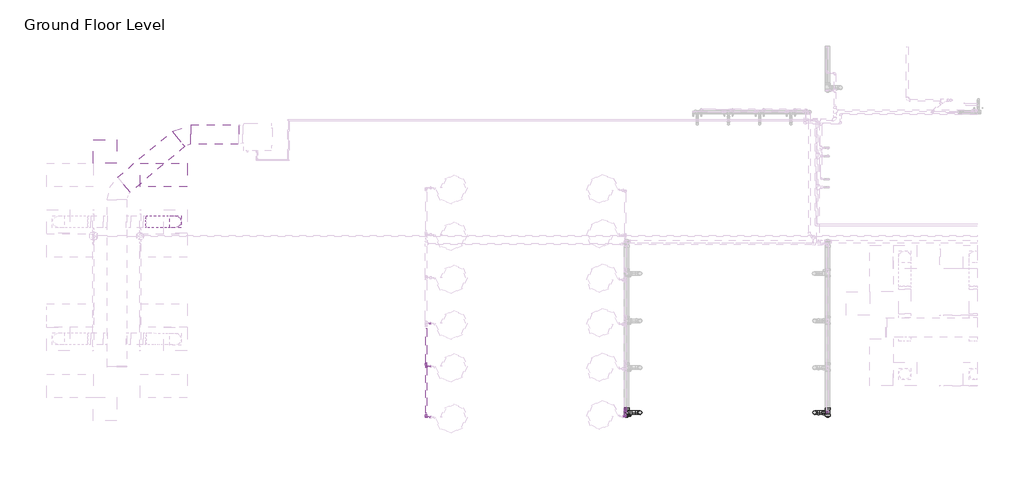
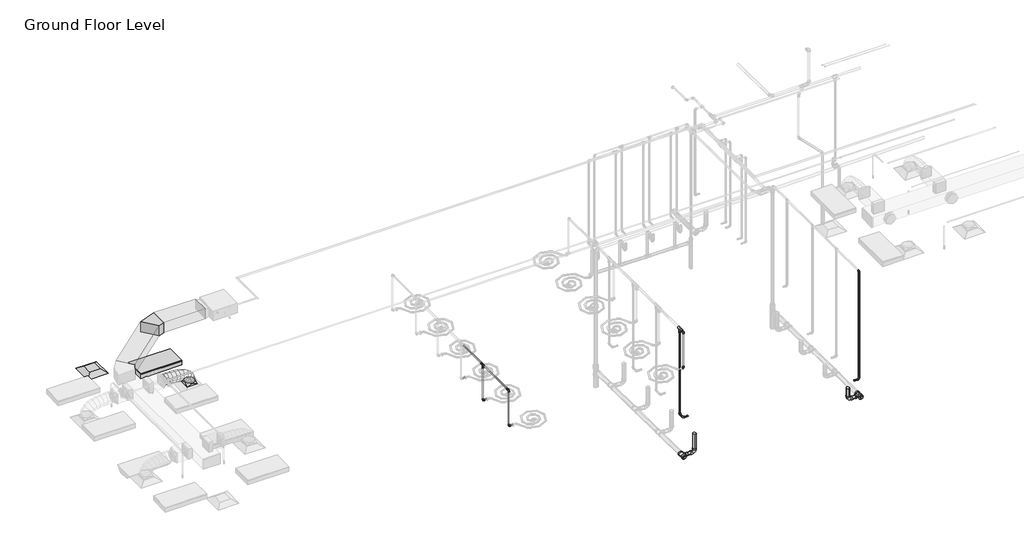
# One storey, part 3 of 75: 22 pipe fittings, 19 pipe segments, 3 duct segments, 2 duct fittings, 1 air terminal, 1 light fixture.
"""IFC4 building model written with IfcOpenShell, lengths in millimetres."""

from ifc_helpers import new_model, si_unit, point, frame, frame_2d, origin, place, context, project, spatial, polyline, circle_curve, ellipse_curve, trimmed, segment, composite_curve, outline, extrude, transform, mapped, element, save
from ifc_brep_helpers import plane_surface, cylinder_surface, advanced_brep
from components import m_return_diffuser_600_x_600_face_300_x_300_connection_ff221211, m_rectangular_elbow_radius_1_w_e33107ab, m_rectangular_to_round_transition_angle_45_degree_641efff0, m_troffer_light_parabolic_rectangular1_0600x1200mm_4_lamp_86473d4a, m_bend_pvc_sch_40_dwv_standard_a4b99d37, m_plug_pvc_sch_40_dwv_standard_6c40de1c, m_tee_reducing_sanitary_pvc_sch_40_dwv_standard_b49161a9, standard_517a5a8d, standard_bbae78af, standard_c7dcb452, standard_636910a4, standard_e5aa6446, standard_c393d86d, standard_77f9104c

model = new_model("IFC4")

# Units and contexts
model_context = context("Model", 3, world=origin())
ifc_project = project(units=[si_unit("LENGTHUNIT", "METRE", prefix="MILLI")], contexts=[model_context])

# Site, building, storey
site = spatial("IfcSite", under=ifc_project)
building = spatial("IfcBuilding", under=site)
storey = spatial("IfcBuildingStorey", under=building, Name="Ground Floor Level", Elevation=900.0)

# Air terminal
placement = place(None, origin())
m_return_diffuser_600_x_600_face_300_x_300_connection_shape = m_return_diffuser_600_x_600_face_300_x_300_connection_ff221211(model_context)
element("IfcAirTerminal", 1, ObjectType="M_Return Diffuser : 600 x 600 Face 300 x 300 Connection", at=placement, inside=storey, context=model_context, shape_type="MappedRepresentation", body=[
    mapped(m_return_diffuser_600_x_600_face_300_x_300_connection_shape, transform((-19137.2327605, -33864.7846466, 3650.0), x_axis=(1.0, 0.0, 0.0), y_axis=(0.0, 1.0, 0.0), z_axis=(0.0, 0.0, 1.0))),
])

# Duct fittings
m_rectangular_elbow_radius_1_w_shape = m_rectangular_elbow_radius_1_w_e33107ab(model_context)
element("IfcDuctFitting", 2, ObjectType="M_Rectangular Elbow - Radius : 1 W", at=placement, inside=storey, context=model_context, shape_type="MappedRepresentation", body=[
    mapped(m_rectangular_elbow_radius_1_w_shape, transform((-17120.666669, -33430.4628495, 4100.0), x_axis=(-0.9999999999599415, 0.0, -8.950815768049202e-06), y_axis=(-9.547984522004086e-11, -0.999999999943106, 1.0667166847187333e-05), z_axis=(-8.950815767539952e-06, 1.0667166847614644e-05, 0.9999999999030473))),
])
m_rectangular_to_round_transition_angle_45_degree_shape = m_rectangular_to_round_transition_angle_45_degree_641efff0(model_context)
element("IfcDuctFitting", 3, ObjectType="M_Rectangular to Round Transition - Angle : 45 Degree", at=placement, inside=storey, context=model_context, shape_type="MappedRepresentation", body=[
    mapped(m_rectangular_to_round_transition_angle_45_degree_shape, transform((-17337.2327605, -35664.7846466, 3751.6), x_axis=(0.0, 0.0, 1.0), y_axis=(-1.0, 0.0, 0.0), z_axis=(0.0, -1.0, 0.0))),
])

# Duct segments
element("IfcDuctSegment", 4, ObjectType="Flex - Round", at=placement, inside=storey, context=model_context, shape_type="AdvancedBrep", body=[
    advanced_brep(
    [(-17187.2327605, -35664.7846466, 3826.6), (-17337.2327605, -35814.7846466, 3826.6), (-17487.2327605, -35664.7846466, 3826.6), (-17337.2327605, -35514.7846466, 3826.6), (-17187.2327605, -35664.7846466, 3883.5809337), (-17337.2327605, -35814.7846466, 3857.9377114), (-17487.2327605, -35664.7846466, 3832.2944892), (-17337.2327605, -35514.7846466, 3857.9377114), (-17220.5107141, -35664.7846466, 3978.0660967), (-17354.2486931, -35814.7846466, 3906.2505728), (-17487.986672, -35664.7846466, 3834.435049), (-17354.2486931, -35514.7846466, 3906.2505728), (-17297.2266742, -35664.7846466, 4079.6206026), (-17401.4325734, -35814.7846466, 3968.7113131), (-17505.6384727, -35664.7846466, 3857.8020236), (-17401.4325734, -35514.7846466, 3968.7113131), (-17404.05447, -35664.7846466, 4150.3237489), (-17472.9885256, -35814.7846466, 4016.0700639), (-17541.9225812, -35664.7846466, 3881.8163788), (-17472.9885256, -35514.7846466, 4016.0700639), (-17519.5599104, -35664.7846466, 4194.3367758), (-17563.1206736, -35814.7846466, 4050.4146682), (-17606.6814368, -35664.7846466, 3906.4925606), (-17563.1206736, -35514.7846466, 4050.4146682), (-17639.4722174, -35664.7846466, 4221.6234841), (-17666.0331414, -35814.7846466, 4073.8329691), (-17692.5940654, -35664.7846466, 3926.0424542), (-17666.0331414, -35514.7846466, 4073.8329691), (-17760.7791508, -35664.7846466, 4237.7170733), (-17775.9300532, -35814.7846466, 4088.4128097), (-17791.0809555, -35664.7846466, 3939.1085462), (-17775.9300532, -35514.7846466, 4088.4128097), (-17879.5102046, -35664.7846466, 4246.085151), (-17887.0155328, -35814.7846466, 4096.242033), (-17894.520861, -35664.7846466, 3946.398915), (-17887.0155328, -35514.7846466, 4096.242033), (-17990.8022112, -35664.7846466, 4249.394754), (-17993.4937043, -35814.7846466, 4099.4084821), (-17996.1851974, -35664.7846466, 3949.4222102), (-17993.4937043, -35514.7846466, 4099.4084821), (-18088.645184, -35664.7846466, 4249.9971571), (-18089.5686918, -35514.7846466, 4100.0), (-18090.4921996, -35664.7846466, 3950.0028429), (-18089.5686918, -35814.7846466, 4100.0)],
    [
        (0, 1, circle_curve(frame((-17337.2327605, -35664.7846466, 3826.6), z_axis=(0.0, 0.0, -1.0), x_axis=(1.0, 0.0, 0.0)), 150.0)),
        (1, 2, circle_curve(frame((-17337.2327605, -35664.7846466, 3826.6), z_axis=(0.0, 0.0, -1.0), x_axis=(1.0, 0.0, 0.0)), 150.0)),
        (2, 3, circle_curve(frame((-17337.2327605, -35664.7846466, 3826.6), z_axis=(0.0, 0.0, -1.0), x_axis=(1.0, 0.0, 0.0)), 150.0)),
        (3, 0, circle_curve(frame((-17337.2327605, -35664.7846466, 3826.6), z_axis=(0.0, 0.0, -1.0), x_axis=(1.0, 0.0, 0.0)), 150.0)),
        (0, 4),
        (4, 5, ellipse_curve(frame((-17337.2327605, -35664.7846466, 3857.9377114), z_axis=(0.16851014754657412, 0.0, -0.9856999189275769), x_axis=(-0.9856999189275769, 0.0, -0.16851014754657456)), 152.176131, 150.0)),
        (5, 1),
        (5, 6, ellipse_curve(frame((-17337.2327605, -35664.7846466, 3857.9377114), z_axis=(0.16851014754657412, 0.0, -0.9856999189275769), x_axis=(-0.9856999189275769, 0.0, -0.16851014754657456)), 152.176131, 150.0)),
        (6, 2),
        (6, 7, ellipse_curve(frame((-17337.2327605, -35664.7846466, 3857.9377114), z_axis=(0.16851014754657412, 0.0, -0.9856999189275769), x_axis=(-0.9856999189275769, 0.0, -0.16851014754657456)), 152.176131, 150.0)),
        (7, 3),
        (7, 4, ellipse_curve(frame((-17337.2327605, -35664.7846466, 3857.9377114), z_axis=(0.16851014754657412, 0.0, -0.9856999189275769), x_axis=(-0.9856999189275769, 0.0, -0.16851014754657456)), 152.176131, 150.0)),
        (4, 8),
        (8, 9, ellipse_curve(frame((-17354.2486931, -35664.7846466, 3906.2505728), z_axis=(0.47309225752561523, 0.0, -0.881012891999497), x_axis=(-0.8810128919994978, 0.0, -0.4730922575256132)), 151.8002519, 150.0)),
        (9, 5),
        (9, 10, ellipse_curve(frame((-17354.2486931, -35664.7846466, 3906.2505728), z_axis=(0.47309225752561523, 0.0, -0.881012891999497), x_axis=(-0.8810128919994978, 0.0, -0.4730922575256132)), 151.8002519, 150.0)),
        (10, 6),
        (10, 11, ellipse_curve(frame((-17354.2486931, -35664.7846466, 3906.2505728), z_axis=(0.47309225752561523, 0.0, -0.881012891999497), x_axis=(-0.8810128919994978, 0.0, -0.4730922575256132)), 151.8002519, 150.0)),
        (11, 7),
        (11, 8, ellipse_curve(frame((-17354.2486931, -35664.7846466, 3906.2505728), z_axis=(0.47309225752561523, 0.0, -0.881012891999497), x_axis=(-0.8810128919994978, 0.0, -0.4730922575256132)), 151.8002519, 150.0)),
        (8, 12),
        (12, 13, ellipse_curve(frame((-17401.4325734, -35664.7846466, 3968.7113131), z_axis=(0.7287877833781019, 0.0, -0.6847396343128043), x_axis=(-0.6847396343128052, 0.0, -0.728787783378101)), 152.1832446, 150.0)),
        (13, 9),
        (13, 14, ellipse_curve(frame((-17401.4325734, -35664.7846466, 3968.7113131), z_axis=(0.7287877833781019, 0.0, -0.6847396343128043), x_axis=(-0.6847396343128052, 0.0, -0.728787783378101)), 152.1832446, 150.0)),
        (14, 10),
        (14, 15, ellipse_curve(frame((-17401.4325734, -35664.7846466, 3968.7113131), z_axis=(0.7287877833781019, 0.0, -0.6847396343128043), x_axis=(-0.6847396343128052, 0.0, -0.728787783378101)), 152.1832446, 150.0)),
        (15, 11),
        (15, 12, ellipse_curve(frame((-17401.4325734, -35664.7846466, 3968.7113131), z_axis=(0.7287877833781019, 0.0, -0.6847396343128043), x_axis=(-0.6847396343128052, 0.0, -0.728787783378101)), 152.1832446, 150.0)),
        (12, 16),
        (16, 17, ellipse_curve(frame((-17472.9885256, -35664.7846466, 4016.0700639), z_axis=(0.8895859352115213, 0.0, -0.4567678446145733), x_axis=(-0.45676784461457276, 0.0, -0.8895859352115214)), 150.91705, 150.0)),
        (17, 13),
        (17, 18, ellipse_curve(frame((-17472.9885256, -35664.7846466, 4016.0700639), z_axis=(0.8895859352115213, 0.0, -0.4567678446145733), x_axis=(-0.45676784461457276, 0.0, -0.8895859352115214)), 150.91705, 150.0)),
        (18, 14),
        (18, 19, ellipse_curve(frame((-17472.9885256, -35664.7846466, 4016.0700639), z_axis=(0.8895859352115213, 0.0, -0.4567678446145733), x_axis=(-0.45676784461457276, 0.0, -0.8895859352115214)), 150.91705, 150.0)),
        (19, 15),
        (19, 16, ellipse_curve(frame((-17472.9885256, -35664.7846466, 4016.0700639), z_axis=(0.8895859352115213, 0.0, -0.4567678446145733), x_axis=(-0.45676784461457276, 0.0, -0.8895859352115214)), 150.91705, 150.0)),
        (16, 20),
        (20, 21, ellipse_curve(frame((-17563.1206736, -35664.7846466, 4050.4146682), z_axis=(0.9571203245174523, 0.0, -0.2896906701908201), x_axis=(-0.28969067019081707, 0.0, -0.9571203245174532)), 150.369921, 150.0)),
        (21, 17),
        (21, 22, ellipse_curve(frame((-17563.1206736, -35664.7846466, 4050.4146682), z_axis=(0.9571203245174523, 0.0, -0.2896906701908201), x_axis=(-0.28969067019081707, 0.0, -0.9571203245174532)), 150.369921, 150.0)),
        (22, 18),
        (22, 23, ellipse_curve(frame((-17563.1206736, -35664.7846466, 4050.4146682), z_axis=(0.9571203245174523, 0.0, -0.2896906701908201), x_axis=(-0.28969067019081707, 0.0, -0.9571203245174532)), 150.369921, 150.0)),
        (23, 19),
        (23, 20, ellipse_curve(frame((-17563.1206736, -35664.7846466, 4050.4146682), z_axis=(0.9571203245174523, 0.0, -0.2896906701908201), x_axis=(-0.28969067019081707, 0.0, -0.9571203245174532)), 150.369921, 150.0)),
        (20, 24),
        (24, 25, ellipse_curve(frame((-17666.0331414, -35664.7846466, 4073.8329691), z_axis=(0.9842313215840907, 0.0, -0.17688613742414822), x_axis=(-0.17688613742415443, 0.0, -0.9842313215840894)), 150.1583131, 150.0)),
        (25, 21),
        (25, 26, ellipse_curve(frame((-17666.0331414, -35664.7846466, 4073.8329691), z_axis=(0.9842313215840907, 0.0, -0.17688613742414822), x_axis=(-0.17688613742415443, 0.0, -0.9842313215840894)), 150.1583131, 150.0)),
        (26, 22),
        (26, 27, ellipse_curve(frame((-17666.0331414, -35664.7846466, 4073.8329691), z_axis=(0.9842313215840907, 0.0, -0.17688613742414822), x_axis=(-0.17688613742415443, 0.0, -0.9842313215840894)), 150.1583131, 150.0)),
        (27, 23),
        (27, 24, ellipse_curve(frame((-17666.0331414, -35664.7846466, 4073.8329691), z_axis=(0.9842313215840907, 0.0, -0.17688613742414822), x_axis=(-0.17688613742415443, 0.0, -0.9842313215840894)), 150.1583131, 150.0)),
        (24, 28),
        (28, 29, ellipse_curve(frame((-17775.9300532, -35664.7846466, 4088.4128097), z_axis=(0.9948906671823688, 0.0, -0.10095821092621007), x_axis=(-0.1009582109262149, -1.267236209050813e-12, -0.9948906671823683)), 150.0710264, 150.0)),
        (29, 25),
        (29, 30, ellipse_curve(frame((-17775.9300532, -35664.7846466, 4088.4128097), z_axis=(0.9948906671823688, 0.0, -0.10095821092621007), x_axis=(-0.1009582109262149, -1.267236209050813e-12, -0.9948906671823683)), 150.0710264, 150.0)),
        (30, 26),
        (30, 31, ellipse_curve(frame((-17775.9300532, -35664.7846466, 4088.4128097), z_axis=(0.9948906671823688, 0.0, -0.10095821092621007), x_axis=(-0.1009582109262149, -1.267236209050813e-12, -0.9948906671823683)), 150.0710264, 150.0)),
        (31, 27),
        (31, 28, ellipse_curve(frame((-17775.9300532, -35664.7846466, 4088.4128097), z_axis=(0.9948906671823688, 0.0, -0.10095821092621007), x_axis=(-0.1009582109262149, -1.267236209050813e-12, -0.9948906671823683)), 150.0710264, 150.0)),
        (28, 32),
        (32, 33, ellipse_curve(frame((-17887.0155328, -35664.7846466, 4096.242033), z_axis=(0.9987479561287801, 0.0, -0.05002519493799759), x_axis=(-0.05002519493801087, 0.0, -0.9987479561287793)), 150.0309634, 150.0)),
        (33, 29),
        (33, 34, ellipse_curve(frame((-17887.0155328, -35664.7846466, 4096.242033), z_axis=(0.9987479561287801, 0.0, -0.05002519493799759), x_axis=(-0.05002519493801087, 0.0, -0.9987479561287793)), 150.0309634, 150.0)),
        (34, 30),
        (34, 35, ellipse_curve(frame((-17887.0155328, -35664.7846466, 4096.242033), z_axis=(0.9987479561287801, 0.0, -0.05002519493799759), x_axis=(-0.05002519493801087, 0.0, -0.9987479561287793)), 150.0309634, 150.0)),
        (35, 31),
        (35, 32, ellipse_curve(frame((-17887.0155328, -35664.7846466, 4096.242033), z_axis=(0.9987479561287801, 0.0, -0.05002519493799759), x_axis=(-0.05002519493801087, 0.0, -0.9987479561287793)), 150.0309634, 150.0)),
        (32, 36),
        (36, 37, ellipse_curve(frame((-17993.4937043, -35664.7846466, 4099.4084821), z_axis=(0.9998390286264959, 0.0, -0.017942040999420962), x_axis=(-0.017942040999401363, 3.6375791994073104e-12, -0.9998390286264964)), 150.0104193, 150.0)),
        (37, 33),
        (37, 38, ellipse_curve(frame((-17993.4937043, -35664.7846466, 4099.4084821), z_axis=(0.9998390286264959, 0.0, -0.017942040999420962), x_axis=(-0.017942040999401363, 3.6375791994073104e-12, -0.9998390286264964)), 150.0104193, 150.0)),
        (38, 34),
        (38, 39, ellipse_curve(frame((-17993.4937043, -35664.7846466, 4099.4084821), z_axis=(0.9998390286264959, 0.0, -0.017942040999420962), x_axis=(-0.017942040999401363, 3.6375791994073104e-12, -0.9998390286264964)), 150.0104193, 150.0)),
        (39, 35),
        (39, 36, ellipse_curve(frame((-17993.4937043, -35664.7846466, 4099.4084821), z_axis=(0.9998390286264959, 0.0, -0.017942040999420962), x_axis=(-0.017942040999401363, 3.6375791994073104e-12, -0.9998390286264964)), 150.0104193, 150.0)),
        (40, 41, circle_curve(frame((-18089.5686918, -35664.7846466, 4100.0), z_axis=(-0.9999810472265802, 0.0, 0.006156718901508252), x_axis=(0.006156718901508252, 0.0, 0.9999810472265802)), 150.0)),
        (41, 42, circle_curve(frame((-18089.5686918, -35664.7846466, 4100.0), z_axis=(-0.9999810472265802, 0.0, 0.006156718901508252), x_axis=(0.006156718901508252, 0.0, 0.9999810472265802)), 150.0)),
        (42, 43, circle_curve(frame((-18089.5686918, -35664.7846466, 4100.0), z_axis=(-0.9999810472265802, 0.0, 0.006156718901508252), x_axis=(0.006156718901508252, 0.0, 0.9999810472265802)), 150.0)),
        (43, 40, circle_curve(frame((-18089.5686918, -35664.7846466, 4100.0), z_axis=(-0.9999810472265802, 0.0, 0.006156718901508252), x_axis=(0.006156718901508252, 0.0, 0.9999810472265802)), 150.0)),
        (36, 40),
        (43, 37),
        (42, 38),
        (41, 39),
    ],
    [
        plane_surface(frame((-17337.2327605, -35814.7846466, 3826.6), z_axis=(0.0, 0.0, -1.0), x_axis=(1.0, 0.0, 0.0))),
        cylinder_surface(frame((-17337.2327605, -35664.7846466, 3826.6), z_axis=(0.0, 0.0, -1.0), x_axis=(1.0, 0.0, 0.0)), 150.0),
        cylinder_surface(frame((-17337.2327605, -35664.7846466, 3857.9377114), z_axis=(0.3322008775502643, 0.0, -0.9432086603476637), x_axis=(0.9432086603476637, 0.0, 0.3322008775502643)), 150.0),
        cylinder_surface(frame((-17354.2486931, -35664.7846466, 3906.2505728), z_axis=(0.6027625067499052, 0.0, -0.7979206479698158), x_axis=(0.7979206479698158, 0.0, 0.6027625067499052)), 150.0),
        cylinder_surface(frame((-17401.4325734, -35664.7846466, 3968.7113131), z_axis=(0.8339024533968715, 0.0, -0.5519118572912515), x_axis=(0.5519118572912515, 0.0, 0.8339024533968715)), 150.0),
        cylinder_surface(frame((-17472.9885256, -35664.7846466, 4016.0700639), z_axis=(0.9344582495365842, 0.0, -0.3560727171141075), x_axis=(0.3560727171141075, 0.0, 0.9344582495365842)), 150.0),
        cylinder_surface(frame((-17563.1206736, -35664.7846466, 4050.4146682), z_axis=(0.9750732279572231, 0.0, -0.22188330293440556), x_axis=(0.22188330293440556, 0.0, 0.9750732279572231)), 150.0),
        cylinder_surface(frame((-17666.0331414, -35664.7846466, 4073.8329691), z_axis=(0.9913140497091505, 0.0, -0.13151598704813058), x_axis=(0.13151598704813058, 0.0, 0.9913140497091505)), 150.0),
        cylinder_surface(frame((-17775.9300532, -35664.7846466, 4088.4128097), z_axis=(0.9975255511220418, 0.0, -0.07030487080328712), x_axis=(0.07030487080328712, 0.0, 0.9975255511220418)), 150.0),
        cylinder_surface(frame((-17887.0155328, -35664.7846466, 4096.242033), z_axis=(0.9995581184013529, 0.0, -0.029724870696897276), x_axis=(0.029724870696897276, 0.0, 0.9995581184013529)), 150.0),
        plane_surface(frame((-18089.5686918, -35814.7846466, 4100.0), z_axis=(-0.9999810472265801, 0.0, 0.00615671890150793), x_axis=(0.00615671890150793, 7.318590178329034e-12, 0.9999810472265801))),
        cylinder_surface(frame((-17993.4937043, -35664.7846466, 4099.4084821), z_axis=(0.9999810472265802, 0.0, -0.006156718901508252), x_axis=(0.006156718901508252, 0.0, 0.9999810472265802)), 150.0),
    ],
    [
        (0, [[1, 2, 3, 4]]),
        (1, [[-1, 5, 6, 7]]),
        (1, [[-2, -7, 8, 9]]),
        (1, [[-3, -9, 10, 11]]),
        (1, [[-4, -11, 12, -5]]),
        (2, [[-6, 13, 14, 15]]),
        (2, [[-8, -15, 16, 17]]),
        (2, [[-10, -17, 18, 19]]),
        (2, [[-12, -19, 20, -13]]),
        (3, [[-14, 21, 22, 23]]),
        (3, [[-16, -23, 24, 25]]),
        (3, [[-18, -25, 26, 27]]),
        (3, [[-20, -27, 28, -21]]),
        (4, [[-22, 29, 30, 31]]),
        (4, [[-24, -31, 32, 33]]),
        (4, [[-26, -33, 34, 35]]),
        (4, [[-28, -35, 36, -29]]),
        (5, [[-30, 37, 38, 39]]),
        (5, [[-32, -39, 40, 41]]),
        (5, [[-34, -41, 42, 43]]),
        (5, [[-36, -43, 44, -37]]),
        (6, [[-38, 45, 46, 47]]),
        (6, [[-40, -47, 48, 49]]),
        (6, [[-42, -49, 50, 51]]),
        (6, [[-44, -51, 52, -45]]),
        (7, [[-46, 53, 54, 55]]),
        (7, [[-48, -55, 56, 57]]),
        (7, [[-50, -57, 58, 59]]),
        (7, [[-52, -59, 60, -53]]),
        (8, [[-54, 61, 62, 63]]),
        (8, [[-56, -63, 64, 65]]),
        (8, [[-58, -65, 66, 67]]),
        (8, [[-60, -67, 68, -61]]),
        (9, [[-62, 69, 70, 71]]),
        (9, [[-64, -71, 72, 73]]),
        (9, [[-66, -73, 74, 75]]),
        (9, [[-68, -75, 76, -69]]),
        (10, [[77, 78, 79, 80]]),
        (11, [[-70, 81, -80, 82]]),
        (11, [[-72, -82, -79, 83]]),
        (11, [[-74, -83, -78, 84]]),
        (11, [[-76, -84, -77, -81]]),
    ],
),
])
element("IfcDuctSegment", 5, ObjectType="Radius Elbows / Taps", at=placement, inside=storey, context=model_context, shape_type="SweptSolid", body=[
    extrude(outline(polyline([(-15712.2265072, -33180.4628495), (-15712.2265072, -33680.4628495), (-16938.6815519, -33680.4628495), (-16938.6815519, -33180.4628495), (-15712.2265072, -33180.4628495)])), frame((0.0, 0.0, 3950.0016289), z_axis=(0.0, 0.0, 1.0), x_axis=(1.0, 0.0, 0.0)), (0.0, 0.0, 1.0), 300.0),
])
element("IfcDuctSegment", 6, ObjectType="Radius Elbows / Taps", at=placement, inside=storey, context=model_context, shape_type="SweptSolid", body=[
    extrude(outline(polyline([(-17420.7722592, -33355.9295172), (-17099.3784543, -33738.9517387), (-18494.7419556, -34909.800738), (-18816.1357605, -34526.7785165), (-17420.7722592, -33355.9295172)])), frame((0.0, 0.0, 3950.0), z_axis=(0.0, 0.0, 1.0), x_axis=(1.0, 0.0, 0.0)), (0.0, 0.0, 1.0), 300.0),
])

# Light fixture
m_troffer_light_parabolic_rectangular1_0600x1200mm_4_lamp_shape = m_troffer_light_parabolic_rectangular1_0600x1200mm_4_lamp_86473d4a(model_context)
element("IfcLightFixture", 7, ObjectType="M_Troffer Light - Parabolic Rectangular1 : 0600x1200mm(4 Lamp) - 277V 2", at=placement, inside=storey, context=model_context, shape_type="MappedRepresentation", body=[
    mapped(m_troffer_light_parabolic_rectangular1_0600x1200mm_4_lamp_shape, transform((-17618.5292589, -34411.6319125, 3650.0), x_axis=(1.0, 0.0, 0.0), y_axis=(0.0, 1.0, 0.0), z_axis=(0.0, 0.0, 1.0))),
])

# Pipe fittings
m_bend_pvc_sch_40_dwv_standard_shape = m_bend_pvc_sch_40_dwv_standard_a4b99d37(model_context)
element("IfcPipeFitting", 8, ObjectType="M_Bend - PVC - Sch 40 - DWV : Standard", at=placement, inside=storey, context=model_context, shape_type="MappedRepresentation", body=[
    mapped(m_bend_pvc_sch_40_dwv_standard_shape, transform((-968.6302333, -40554.7846466, 474.636445), x_axis=(0.0, 0.0, -1.0), y_axis=(1.0, 0.0, 0.0), z_axis=(0.0, -1.0, 0.0))),
])
element("IfcPipeFitting", 9, ObjectType="M_Bend - PVC - Sch 40 - DWV : Standard", at=placement, inside=storey, context=model_context, shape_type="MappedRepresentation", body=[
    mapped(m_bend_pvc_sch_40_dwv_standard_shape, transform((-5437.0260633, -40554.7846466, 426.7547439), x_axis=(0.0, 0.0, -1.0), y_axis=(-1.0, 0.0, 0.0), z_axis=(0.0, 1.0, 0.0))),
])
m_plug_pvc_sch_40_dwv_standard_shape = m_plug_pvc_sch_40_dwv_standard_6c40de1c(model_context)
element("IfcPipeFitting", 10, ObjectType="M_Plug - PVC - Sch 40 - DWV : Standard", at=placement, inside=storey, context=model_context, shape_type="MappedRepresentation", body=[
    mapped(m_plug_pvc_sch_40_dwv_standard_shape, transform((-633.5600391, -40643.6787021, 475.6753855), x_axis=(0.0, -0.9999500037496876, 0.00999950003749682), y_axis=(1.0, 0.0, 0.0), z_axis=(0.0, 0.00999950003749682, 0.9999500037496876))),
])
element("IfcPipeFitting", 11, ObjectType="M_Plug - PVC - Sch 40 - DWV : Standard", at=placement, inside=storey, context=model_context, shape_type="MappedRepresentation", body=[
    mapped(m_plug_pvc_sch_40_dwv_standard_shape, transform((-5783.0674798, -40643.6787021, 427.7936845), x_axis=(0.0, -0.9999500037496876, 0.009999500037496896), y_axis=(1.0, 0.0, 0.0), z_axis=(0.0, 0.009999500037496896, 0.9999500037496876))),
])
m_tee_reducing_sanitary_pvc_sch_40_dwv_standard_shape = m_tee_reducing_sanitary_pvc_sch_40_dwv_standard_b49161a9(model_context)
element("IfcPipeFitting", 12, ObjectType="M_Tee Reducing Sanitary - PVC - Sch 40 - DWV : Standard", at=placement, inside=storey, context=model_context, shape_type="MappedRepresentation", body=[
    mapped(m_tee_reducing_sanitary_pvc_sch_40_dwv_standard_shape, transform((-633.5600391, -40554.7831468, 474.78643), x_axis=(0.0, -0.9999500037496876, 0.00999950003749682), y_axis=(1.0, 0.0, 0.0), z_axis=(0.0, 0.00999950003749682, 0.9999500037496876))),
])
element("IfcPipeFitting", 13, ObjectType="M_Tee Reducing Sanitary - PVC - Sch 40 - DWV : Standard", at=placement, inside=storey, context=model_context, shape_type="MappedRepresentation", body=[
    mapped(m_tee_reducing_sanitary_pvc_sch_40_dwv_standard_shape, transform((-5783.0674798, -40554.7831468, 426.9047289), x_axis=(0.0, -0.9999500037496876, 0.009999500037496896), y_axis=(-1.0, 0.0, 0.0), z_axis=(0.0, -0.009999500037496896, -0.9999500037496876))),
])
standard_shape = standard_517a5a8d(model_context)
element("IfcPipeFitting", 14, ObjectType="M_Elbow - CPVC - Sch 40 : Standard", at=placement, inside=storey, context=model_context, shape_type="MappedRepresentation", body=[
    mapped(standard_shape, transform((-639.6485359, -40554.7846466, 4300.0), x_axis=(0.0, -1.0, 0.0), y_axis=(0.0, 0.0, -1.0), z_axis=(1.0, 0.0, 0.0))),
])
element("IfcPipeFitting", 15, ObjectType="M_Elbow - CPVC - Sch 40 : Standard", at=placement, inside=storey, context=model_context, shape_type="MappedRepresentation", body=[
    mapped(standard_shape, transform((-5815.4900472, -40654.7846466, 3200.0), x_axis=(0.0, 0.0, -1.0), y_axis=(-1.0, 0.0, 0.0), z_axis=(0.0, 1.0, 0.0))),
])
element("IfcPipeFitting", 16, ObjectType="M_Elbow - CPVC - Sch 40 : Standard", at=placement, inside=storey, context=model_context, shape_type="MappedRepresentation", body=[
    mapped(standard_shape, transform((-5815.4900472, -40468.2234128, 1655.0), x_axis=(0.0, 1.0, 0.0), y_axis=(0.0, 0.0, 1.0), z_axis=(1.0, 0.0, 0.0))),
])
element("IfcPipeFitting", 17, ObjectType="M_Elbow - CPVC - Sch 40 : Standard", at=placement, inside=storey, context=model_context, shape_type="MappedRepresentation", body=[
    mapped(standard_shape, transform((-5815.4900472, -40654.7846466, 4300.0), x_axis=(0.0, -1.0, 0.0), y_axis=(0.0, 0.0, -1.0), z_axis=(1.0, 0.0, 0.0))),
])
element("IfcPipeFitting", 18, ObjectType="M_Elbow - CPVC - Sch 40 : Standard", at=placement, inside=storey, context=model_context, shape_type="MappedRepresentation", body=[
    mapped(standard_shape, transform((-10915.1539972, -40669.7846466, 3200.0), x_axis=(0.0, 0.0, -1.0), y_axis=(1.0, 0.0, 0.0), z_axis=(0.0, -1.0, 0.0))),
])
element("IfcPipeFitting", 19, ObjectType="M_Elbow - CPVC - Sch 40 : Standard", at=placement, inside=storey, context=model_context, shape_type="MappedRepresentation", body=[
    mapped(standard_shape, transform((-10915.1539972, -40669.7846466, 4300.0), x_axis=(0.0, -1.0, 0.0), y_axis=(0.0, 0.0, -1.0), z_axis=(1.0, 0.0, 0.0))),
])
element("IfcPipeFitting", 20, ObjectType="M_Elbow - CPVC - Sch 40 : Standard", at=placement, inside=storey, context=model_context, shape_type="MappedRepresentation", body=[
    mapped(standard_shape, transform((-10915.1539972, -39369.7846466, 3200.0), x_axis=(0.0, 0.0, -1.0), y_axis=(1.0, 0.0, 0.0), z_axis=(0.0, -1.0, 0.0))),
])
element("IfcPipeFitting", 21, ObjectType="M_Elbow - CPVC - Sch 40 : Standard", at=placement, inside=storey, context=model_context, shape_type="MappedRepresentation", body=[
    mapped(standard_shape, transform((-5815.4900472, -40628.2234128, 1655.0), x_axis=(0.0, -1.0, 0.0), y_axis=(1.0, 0.0, 0.0), z_axis=(0.0, 0.0, 1.0))),
])
standard_2_shape = standard_bbae78af(model_context)
element("IfcPipeFitting", 22, ObjectType="M_Tee - CPVC - Sch 40 : Standard", at=placement, inside=storey, context=model_context, shape_type="MappedRepresentation", body=[
    mapped(standard_2_shape, transform((-5815.4900472, -40468.2234128, 4300.0), x_axis=(0.0, 1.0, 0.0), y_axis=(0.0, 0.0, 1.0), z_axis=(1.0, 0.0, 0.0))),
])
standard_3_shape = standard_c7dcb452(model_context)
element("IfcPipeFitting", 23, ObjectType="M_Coupling Reducing - CPVC - Sch 40 : Standard", at=placement, inside=storey, context=model_context, shape_type="MappedRepresentation", body=[
    mapped(standard_3_shape, transform((-10915.1539972, -39337.2472466, 4300.0), x_axis=(0.0, 1.0, 0.0), y_axis=(-1.0, 0.0, 0.0), z_axis=(0.0, 0.0, 1.0))),
])
element("IfcPipeFitting", 24, ObjectType="M_Coupling Reducing - CPVC - Sch 40 : Standard", at=placement, inside=storey, context=model_context, shape_type="MappedRepresentation", body=[
    mapped(standard_3_shape, transform((-10915.1539972, -39369.7846466, 4267.4626), x_axis=(0.0, 0.0, -1.0), y_axis=(0.0, 1.0, 0.0), z_axis=(1.0, 0.0, 0.0))),
])
standard_4_shape = standard_636910a4(model_context)
element("IfcPipeFitting", 25, ObjectType="M_Tee - CPVC - Sch 40 : Standard", at=placement, inside=storey, context=model_context, shape_type="MappedRepresentation", body=[
    mapped(standard_4_shape, transform((-10915.1539972, -39369.7846466, 4300.0), x_axis=(0.0, -1.0, 0.0), y_axis=(0.0, 0.0, 1.0), z_axis=(-1.0, 0.0, 0.0))),
])
standard_5_shape = standard_e5aa6446(model_context)
element("IfcPipeFitting", 26, ObjectType="M_Coupling Reducing - CPVC - Sch 40 : Standard", at=placement, inside=storey, context=model_context, shape_type="MappedRepresentation", body=[
    mapped(standard_5_shape, transform((-10915.1539972, -40626.5220966, 4300.0), x_axis=(0.0, 1.0, 0.0), y_axis=(-1.0, 0.0, 0.0), z_axis=(0.0, 0.0, 1.0))),
])
standard_6_shape = standard_c393d86d(model_context)
element("IfcPipeFitting", 27, ObjectType="M_Elbow - CPVC - Sch 40 : Standard", at=placement, inside=storey, context=model_context, shape_type="MappedRepresentation", body=[
    mapped(standard_6_shape, transform((-639.6485359, -40554.7846466, 983.5), x_axis=(0.0, 0.0, -1.0), y_axis=(-1.0, 0.0, 0.0), z_axis=(0.0, 1.0, 0.0))),
])
standard_7_shape = standard_77f9104c(model_context)
element("IfcPipeFitting", 28, ObjectType="M_Coupling Reducing - CPVC - Sch 40 : Standard", at=placement, inside=storey, context=model_context, shape_type="MappedRepresentation", body=[
    mapped(standard_7_shape, transform((-5815.4900472, -40468.2234128, 4241.2498), x_axis=(0.0, 0.0, -1.0), y_axis=(0.0, -1.0, 0.0), z_axis=(-1.0, 0.0, 0.0))),
])
element("IfcPipeFitting", 29, ObjectType="M_Coupling Reducing - CPVC - Sch 40 : Standard", at=placement, inside=storey, context=model_context, shape_type="MappedRepresentation", body=[
    mapped(standard_7_shape, transform((-5815.4900472, -40539.3232216, 4300.0), x_axis=(0.0, -1.0, 0.0), y_axis=(1.0, 0.0, 0.0), z_axis=(0.0, 0.0, 1.0))),
])

# Pipe segments
element("IfcPipeSegment", 30, ObjectType="CPVC", at=placement, inside=storey, context=model_context, shape_type="SweptSolid", body=[
    extrude(outline(composite_curve([segment(trimmed(circle_curve(frame_2d((-40554.7846466, 983.4999935)), 16.7005), [point((-40538.0841466, 983.4999935))], [point((-40554.7846466, 966.7994935))], False, "CARTESIAN"), True, "CONTINUOUS"), segment(trimmed(circle_curve(frame_2d((-40554.7846466, 983.4999935)), 16.7005), [point((-40554.7846466, 966.7994935))], [point((-40571.4851466, 983.4999935))], False, "CARTESIAN"), True, "CONTINUOUS"), segment(trimmed(circle_curve(frame_2d((-40554.7846466, 983.4999935)), 16.7005), [point((-40571.4851466, 983.4999935))], [point((-40554.7846466, 1000.2004935))], False, "CARTESIAN"), True, "CONTINUOUS"), segment(trimmed(circle_curve(frame_2d((-40554.7846466, 983.4999935)), 16.7005), [point((-40554.7846466, 1000.2004935))], [point((-40538.0841466, 983.4999935))], False, "CARTESIAN"), True, "CONTINUOUS")], self_intersect=False)), frame((-782.4615578, 0.0, 0.0), z_axis=(1.0, 0.0, 0.0), x_axis=(0.0, 1.0, 0.0)), (0.0, 0.0, 1.0), 99.550475),
])
element("IfcPipeSegment", 31, ObjectType="CPVC", at=placement, inside=storey, context=model_context, shape_type="SweptSolid", body=[
    extrude(outline(composite_curve([segment(trimmed(circle_curve(frame_2d((-639.6485359, -40554.7846466)), 16.7005), [point((-622.9480359, -40554.7846466))], [point((-639.6485359, -40571.4851466))], False, "CARTESIAN"), True, "CONTINUOUS"), segment(trimmed(circle_curve(frame_2d((-639.6485359, -40554.7846466)), 16.7005), [point((-639.6485359, -40571.4851466))], [point((-656.3490359, -40554.7846466))], False, "CARTESIAN"), True, "CONTINUOUS"), segment(trimmed(circle_curve(frame_2d((-639.6485359, -40554.7846466)), 16.7005), [point((-656.3490359, -40554.7846466))], [point((-639.6485359, -40538.0841466))], False, "CARTESIAN"), True, "CONTINUOUS"), segment(trimmed(circle_curve(frame_2d((-639.6485359, -40554.7846466)), 16.7005), [point((-639.6485359, -40538.0841466))], [point((-622.9480359, -40554.7846466))], False, "CARTESIAN"), True, "CONTINUOUS")], self_intersect=False)), frame((0.0, 0.0, 1026.7625468), z_axis=(0.0, 0.0, 1.0), x_axis=(1.0, 0.0, 0.0)), (0.0, 0.0, 1.0), 3229.9749032),
])
element("IfcPipeSegment", 32, ObjectType="CPVC", at=placement, inside=storey, context=model_context, shape_type="SweptSolid", body=[
    extrude(outline(composite_curve([segment(trimmed(circle_curve(frame_2d((-40654.7846466, 3200.0)), 16.7005), [point((-40671.4851466, 3200.0))], [point((-40654.7846466, 3216.7005))], False, "CARTESIAN"), True, "CONTINUOUS"), segment(trimmed(circle_curve(frame_2d((-40654.7846466, 3200.0)), 16.7005), [point((-40654.7846466, 3216.7005))], [point((-40638.0841466, 3200.0))], False, "CARTESIAN"), True, "CONTINUOUS"), segment(trimmed(circle_curve(frame_2d((-40654.7846466, 3200.0)), 16.7005), [point((-40638.0841466, 3200.0))], [point((-40654.7846466, 3183.2995))], False, "CARTESIAN"), True, "CONTINUOUS"), segment(trimmed(circle_curve(frame_2d((-40654.7846466, 3200.0)), 16.7005), [point((-40654.7846466, 3183.2995))], [point((-40671.4851466, 3200.0))], False, "CARTESIAN"), True, "CONTINUOUS")], self_intersect=False)), frame((-5868.9493142, 0.0, 0.0), z_axis=(1.0, 0.0, 0.0), x_axis=(0.0, 1.0, 0.0)), (0.0, 0.0, 1.0), 10.1967171),
])
element("IfcPipeSegment", 33, ObjectType="CPVC", at=placement, inside=storey, context=model_context, shape_type="SweptSolid", body=[
    extrude(outline(composite_curve([segment(trimmed(circle_curve(frame_2d((-5815.4900472, -40654.7846466)), 16.7005), [point((-5798.7895472, -40654.7846466))], [point((-5815.4900472, -40671.4851466))], False, "CARTESIAN"), True, "CONTINUOUS"), segment(trimmed(circle_curve(frame_2d((-5815.4900472, -40654.7846466)), 16.7005), [point((-5815.4900472, -40671.4851466))], [point((-5832.1905472, -40654.7846466))], False, "CARTESIAN"), True, "CONTINUOUS"), segment(trimmed(circle_curve(frame_2d((-5815.4900472, -40654.7846466)), 16.7005), [point((-5832.1905472, -40654.7846466))], [point((-5815.4900472, -40638.0841466))], False, "CARTESIAN"), True, "CONTINUOUS"), segment(trimmed(circle_curve(frame_2d((-5815.4900472, -40654.7846466)), 16.7005), [point((-5815.4900472, -40638.0841466))], [point((-5798.7895472, -40654.7846466))], False, "CARTESIAN"), True, "CONTINUOUS")], self_intersect=False)), frame((0.0, 0.0, 3243.26255), z_axis=(0.0, 0.0, 1.0), x_axis=(1.0, 0.0, 0.0)), (0.0, 0.0, 1.0), 1013.4749),
])
element("IfcPipeSegment", 34, ObjectType="CPVC", at=placement, inside=storey, context=model_context, shape_type="SweptSolid", body=[
    extrude(outline(composite_curve([segment(trimmed(circle_curve(frame_2d((0.0, -24.13)), 24.13), [point((0.0, 0.0))], [point((24.13, -24.13))], False, "CARTESIAN"), True, "CONTINUOUS"), segment(trimmed(circle_curve(frame_2d((0.0, -24.13)), 24.13), [point((24.13, -24.13))], [point((0.0, -48.26))], False, "CARTESIAN"), True, "CONTINUOUS"), segment(trimmed(circle_curve(frame_2d((0.0, -24.13)), 24.13), [point((0.0, -48.26))], [point((-24.13, -24.13))], False, "CARTESIAN"), True, "CONTINUOUS"), segment(trimmed(circle_curve(frame_2d((0.0, -24.13)), 24.13), [point((-24.13, -24.13))], [point((0.0, 0.0))], False, "CARTESIAN"), True, "CONTINUOUS")], self_intersect=False)), frame((-5839.6200472, -40539.3232216, 4300.0), z_axis=(1.79505533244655e-12, 1.0, 0.0), x_axis=(0.0, 0.0, -1.0)), (0.0, 0.0, 1.0), 12.3496088),
])
element("IfcPipeSegment", 35, ObjectType="CPVC", at=placement, inside=storey, context=model_context, shape_type="SweptSolid", body=[
    extrude(outline(composite_curve([segment(trimmed(circle_curve(frame_2d((-40628.2234128, 1655.0)), 16.7005), [point((-40644.9239128, 1655.0))], [point((-40628.2234128, 1671.7005))], False, "CARTESIAN"), True, "CONTINUOUS"), segment(trimmed(circle_curve(frame_2d((-40628.2234128, 1655.0)), 16.7005), [point((-40628.2234128, 1671.7005))], [point((-40611.5229128, 1655.0))], False, "CARTESIAN"), True, "CONTINUOUS"), segment(trimmed(circle_curve(frame_2d((-40628.2234128, 1655.0)), 16.7005), [point((-40611.5229128, 1655.0))], [point((-40628.2234128, 1638.2995))], False, "CARTESIAN"), True, "CONTINUOUS"), segment(trimmed(circle_curve(frame_2d((-40628.2234128, 1655.0)), 16.7005), [point((-40628.2234128, 1638.2995))], [point((-40644.9239128, 1655.0))], False, "CARTESIAN"), True, "CONTINUOUS")], self_intersect=False)), frame((-5772.2274972, 0.0, 0.0), z_axis=(1.0, 0.0, 0.0), x_axis=(0.0, 1.0, 0.0)), (0.0, 0.0, 1.0), 101.6587367),
])
element("IfcPipeSegment", 36, ObjectType="CPVC", at=placement, inside=storey, context=model_context, shape_type="SweptSolid", body=[
    extrude(outline(composite_curve([segment(trimmed(circle_curve(frame_2d((1655.0, -5815.4900472)), 16.7005), [point((1655.0, -5798.7895472))], [point((1671.7005, -5815.4900472))], False, "CARTESIAN"), True, "CONTINUOUS"), segment(trimmed(circle_curve(frame_2d((1655.0, -5815.4900472)), 16.7005), [point((1671.7005, -5815.4900472))], [point((1655.0, -5832.1905472))], False, "CARTESIAN"), True, "CONTINUOUS"), segment(trimmed(circle_curve(frame_2d((1655.0, -5815.4900472)), 16.7005), [point((1655.0, -5832.1905472))], [point((1638.2995, -5815.4900472))], False, "CARTESIAN"), True, "CONTINUOUS"), segment(trimmed(circle_curve(frame_2d((1655.0, -5815.4900472)), 16.7005), [point((1638.2995, -5815.4900472))], [point((1655.0, -5798.7895472))], False, "CARTESIAN"), True, "CONTINUOUS")], self_intersect=False)), frame((0.0, -40584.9608628, 0.0), z_axis=(0.0, 1.0, 0.0), x_axis=(0.0, 0.0, 1.0)), (0.0, 0.0, 1.0), 73.4749),
])
element("IfcPipeSegment", 37, ObjectType="CPVC", at=placement, inside=storey, context=model_context, shape_type="SweptSolid", body=[
    extrude(outline(composite_curve([segment(trimmed(circle_curve(frame_2d((-5815.4900472, -40468.2234128)), 16.7005), [point((-5798.7895472, -40468.2234128))], [point((-5815.4900472, -40484.9239128))], False, "CARTESIAN"), True, "CONTINUOUS"), segment(trimmed(circle_curve(frame_2d((-5815.4900472, -40468.2234128)), 16.7005), [point((-5815.4900472, -40484.9239128))], [point((-5832.1905472, -40468.2234128))], False, "CARTESIAN"), True, "CONTINUOUS"), segment(trimmed(circle_curve(frame_2d((-5815.4900472, -40468.2234128)), 16.7005), [point((-5832.1905472, -40468.2234128))], [point((-5815.4900472, -40451.5229128))], False, "CARTESIAN"), True, "CONTINUOUS"), segment(trimmed(circle_curve(frame_2d((-5815.4900472, -40468.2234128)), 16.7005), [point((-5815.4900472, -40451.5229128))], [point((-5798.7895472, -40468.2234128))], False, "CARTESIAN"), True, "CONTINUOUS")], self_intersect=False)), frame((0.0, 0.0, 1698.26255), z_axis=(0.0, 0.0, 1.0), x_axis=(1.0, 0.0, 0.0)), (0.0, 0.0, 1.0), 2470.788375),
])
element("IfcPipeSegment", 38, ObjectType="CPVC", at=placement, inside=storey, context=model_context, shape_type="SweptSolid", body=[
    extrude(outline(composite_curve([segment(trimmed(circle_curve(frame_2d((-40669.7846466, 3200.0)), 16.7005), [point((-40686.4851466, 3200.0))], [point((-40669.7846466, 3216.7005))], False, "CARTESIAN"), True, "CONTINUOUS"), segment(trimmed(circle_curve(frame_2d((-40669.7846466, 3200.0)), 16.7005), [point((-40669.7846466, 3216.7005))], [point((-40653.0841466, 3200.0))], False, "CARTESIAN"), True, "CONTINUOUS"), segment(trimmed(circle_curve(frame_2d((-40669.7846466, 3200.0)), 16.7005), [point((-40653.0841466, 3200.0))], [point((-40669.7846466, 3183.2995))], False, "CARTESIAN"), True, "CONTINUOUS"), segment(trimmed(circle_curve(frame_2d((-40669.7846466, 3200.0)), 16.7005), [point((-40669.7846466, 3183.2995))], [point((-40686.4851466, 3200.0))], False, "CARTESIAN"), True, "CONTINUOUS")], self_intersect=False)), frame((-10871.8914472, 0.0, 0.0), z_axis=(1.0, 0.0, 0.0), x_axis=(0.0, 1.0, 0.0)), (0.0, 0.0, 1.0), 66.3712404),
])
element("IfcPipeSegment", 39, ObjectType="CPVC", at=placement, inside=storey, context=model_context, shape_type="SweptSolid", body=[
    extrude(outline(composite_curve([segment(trimmed(circle_curve(frame_2d((-10915.1539972, -40669.7846466)), 16.7005), [point((-10898.4534972, -40669.7846466))], [point((-10915.1539972, -40686.4851466))], False, "CARTESIAN"), True, "CONTINUOUS"), segment(trimmed(circle_curve(frame_2d((-10915.1539972, -40669.7846466)), 16.7005), [point((-10915.1539972, -40686.4851466))], [point((-10931.8544972, -40669.7846466))], False, "CARTESIAN"), True, "CONTINUOUS"), segment(trimmed(circle_curve(frame_2d((-10915.1539972, -40669.7846466)), 16.7005), [point((-10931.8544972, -40669.7846466))], [point((-10915.1539972, -40653.0841466))], False, "CARTESIAN"), True, "CONTINUOUS"), segment(trimmed(circle_curve(frame_2d((-10915.1539972, -40669.7846466)), 16.7005), [point((-10915.1539972, -40653.0841466))], [point((-10898.4534972, -40669.7846466))], False, "CARTESIAN"), True, "CONTINUOUS")], self_intersect=False)), frame((0.0, 0.0, 3243.26255), z_axis=(0.0, 0.0, 1.0), x_axis=(1.0, 0.0, 0.0)), (0.0, 0.0, 1.0), 1013.4749),
])
element("IfcPipeSegment", 40, ObjectType="CPVC", at=placement, inside=storey, context=model_context, shape_type="SweptSolid", body=[
    extrude(outline(composite_curve([segment(trimmed(circle_curve(frame_2d((4300.0, -10915.1539972)), 13.335), [point((4300.0, -10928.4889972))], [point((4286.665, -10915.1539972))], False, "CARTESIAN"), True, "CONTINUOUS"), segment(trimmed(circle_curve(frame_2d((4300.0, -10915.1539972)), 13.335), [point((4286.665, -10915.1539972))], [point((4300.0, -10901.8189972))], False, "CARTESIAN"), True, "CONTINUOUS"), segment(trimmed(circle_curve(frame_2d((4300.0, -10915.1539972)), 13.335), [point((4300.0, -10901.8189972))], [point((4313.335, -10915.1539972))], False, "CARTESIAN"), True, "CONTINUOUS"), segment(trimmed(circle_curve(frame_2d((4300.0, -10915.1539972)), 13.335), [point((4313.335, -10915.1539972))], [point((4300.0, -10928.4889972))], False, "CARTESIAN"), True, "CONTINUOUS")], self_intersect=False)), frame((0.0, -40569.3720966, 0.0), z_axis=(0.0, 1.0, 0.0), x_axis=(0.0, 0.0, 1.0)), (0.0, 0.0, 1.0), 1167.05005),
])
element("IfcPipeSegment", 41, ObjectType="CPVC", at=placement, inside=storey, context=model_context, shape_type="SweptSolid", body=[
    extrude(outline(composite_curve([segment(trimmed(circle_curve(frame_2d((-39369.7846466, 3200.0)), 16.7005), [point((-39353.0841466, 3200.0))], [point((-39369.7846466, 3183.2995))], False, "CARTESIAN"), True, "CONTINUOUS"), segment(trimmed(circle_curve(frame_2d((-39369.7846466, 3200.0)), 16.7005), [point((-39369.7846466, 3183.2995))], [point((-39386.4851466, 3200.0))], False, "CARTESIAN"), True, "CONTINUOUS"), segment(trimmed(circle_curve(frame_2d((-39369.7846466, 3200.0)), 16.7005), [point((-39386.4851466, 3200.0))], [point((-39369.7846466, 3216.7005))], False, "CARTESIAN"), True, "CONTINUOUS"), segment(trimmed(circle_curve(frame_2d((-39369.7846466, 3200.0)), 16.7005), [point((-39369.7846466, 3216.7005))], [point((-39353.0841466, 3200.0))], False, "CARTESIAN"), True, "CONTINUOUS")], self_intersect=False)), frame((-10871.8914472, 0.0, 0.0), z_axis=(1.0, 0.0, 0.0), x_axis=(0.0, 1.0, 0.0)), (0.0, 0.0, 1.0), 66.3712404),
])
element("IfcPipeSegment", 42, ObjectType="CPVC", at=placement, inside=storey, context=model_context, shape_type="SweptSolid", body=[
    extrude(outline(composite_curve([segment(trimmed(circle_curve(frame_2d((-10915.1539972, -39369.7846466)), 16.7005), [point((-10898.4534972, -39369.7846466))], [point((-10915.1539972, -39386.4851466))], False, "CARTESIAN"), True, "CONTINUOUS"), segment(trimmed(circle_curve(frame_2d((-10915.1539972, -39369.7846466)), 16.7005), [point((-10915.1539972, -39386.4851466))], [point((-10931.8544972, -39369.7846466))], False, "CARTESIAN"), True, "CONTINUOUS"), segment(trimmed(circle_curve(frame_2d((-10915.1539972, -39369.7846466)), 16.7005), [point((-10931.8544972, -39369.7846466))], [point((-10915.1539972, -39353.0841466))], False, "CARTESIAN"), True, "CONTINUOUS"), segment(trimmed(circle_curve(frame_2d((-10915.1539972, -39369.7846466)), 16.7005), [point((-10915.1539972, -39353.0841466))], [point((-10898.4534972, -39369.7846466))], False, "CARTESIAN"), True, "CONTINUOUS")], self_intersect=False)), frame((0.0, 0.0, 3243.26255), z_axis=(0.0, 0.0, 1.0), x_axis=(1.0, 0.0, 0.0)), (0.0, 0.0, 1.0), 967.05005),
])
element("IfcPipeSegment", 43, ObjectType="CPVC", at=placement, inside=storey, context=model_context, shape_type="SweptSolid", body=[
    extrude(outline(composite_curve([segment(trimmed(circle_curve(frame_2d((4300.0, -10915.1539972)), 16.7005), [point((4300.0, -10931.8544972))], [point((4283.2995, -10915.1539972))], False, "CARTESIAN"), True, "CONTINUOUS"), segment(trimmed(circle_curve(frame_2d((4300.0, -10915.1539972)), 16.7005), [point((4283.2995, -10915.1539972))], [point((4300.0, -10898.4534972))], False, "CARTESIAN"), True, "CONTINUOUS"), segment(trimmed(circle_curve(frame_2d((4300.0, -10915.1539972)), 16.7005), [point((4300.0, -10898.4534972))], [point((4316.7005, -10915.1539972))], False, "CARTESIAN"), True, "CONTINUOUS"), segment(trimmed(circle_curve(frame_2d((4300.0, -10915.1539972)), 16.7005), [point((4316.7005, -10915.1539972))], [point((4300.0, -10931.8544972))], False, "CARTESIAN"), True, "CONTINUOUS")], self_intersect=False)), frame((0.0, -39280.0972466, 0.0), z_axis=(0.0, 1.0, 0.0), x_axis=(0.0, 0.0, 1.0)), (0.0, 0.0, 1.0), 890.218725),
])
element("IfcPipeSegment", 44, ObjectType="CPVC", at=placement, inside=storey, context=model_context, shape_type="SweptSolid", body=[
    extrude(outline(composite_curve([segment(trimmed(circle_curve(frame_2d((-38269.7846466, 3200.0)), 16.7005), [point((-38253.0841466, 3200.0))], [point((-38269.7846466, 3183.2995))], False, "CARTESIAN"), True, "CONTINUOUS"), segment(trimmed(circle_curve(frame_2d((-38269.7846466, 3200.0)), 16.7005), [point((-38269.7846466, 3183.2995))], [point((-38286.4851466, 3200.0))], False, "CARTESIAN"), True, "CONTINUOUS"), segment(trimmed(circle_curve(frame_2d((-38269.7846466, 3200.0)), 16.7005), [point((-38286.4851466, 3200.0))], [point((-38269.7846466, 3216.7005))], False, "CARTESIAN"), True, "CONTINUOUS"), segment(trimmed(circle_curve(frame_2d((-38269.7846466, 3200.0)), 16.7005), [point((-38269.7846466, 3216.7005))], [point((-38253.0841466, 3200.0))], False, "CARTESIAN"), True, "CONTINUOUS")], self_intersect=False)), frame((-10871.8914472, 0.0, 0.0), z_axis=(1.0, 0.0, 0.0), x_axis=(0.0, 1.0, 0.0)), (0.0, 0.0, 1.0), 66.3712404),
])
element("IfcPipeSegment", 45, ObjectType="PVC - DWV", at=placement, inside=storey, context=model_context, shape_type="SweptSolid", body=[
    extrude(outline(composite_curve([segment(trimmed(circle_curve(frame_2d((-968.6302333, -40554.7846466)), 44.45), [point((-924.1802333, -40554.7846466))], [point((-968.6302333, -40599.2346466))], False, "CARTESIAN"), True, "CONTINUOUS"), segment(trimmed(circle_curve(frame_2d((-968.6302333, -40554.7846466)), 44.45), [point((-968.6302333, -40599.2346466))], [point((-1013.0802333, -40554.7846466))], False, "CARTESIAN"), True, "CONTINUOUS"), segment(trimmed(circle_curve(frame_2d((-968.6302333, -40554.7846466)), 44.45), [point((-1013.0802333, -40554.7846466))], [point((-968.6302333, -40510.3346466))], False, "CARTESIAN"), True, "CONTINUOUS"), segment(trimmed(circle_curve(frame_2d((-968.6302333, -40554.7846466)), 44.45), [point((-968.6302333, -40510.3346466))], [point((-924.1802333, -40554.7846466))], False, "CARTESIAN"), True, "CONTINUOUS")], self_intersect=False)), frame((0.0, 0.0, 590.536645), z_axis=(0.0, 0.0, 1.0), x_axis=(1.0, 0.0, 0.0)), (0.0, 0.0, 1.0), 240.1317316),
])
element("IfcPipeSegment", 46, ObjectType="PVC - DWV", at=placement, inside=storey, context=model_context, shape_type="SweptSolid", body=[
    extrude(outline(composite_curve([segment(trimmed(circle_curve(frame_2d((-40554.7831468, 474.78643)), 44.45), [point((-40599.2331468, 474.78643))], [point((-40554.7831468, 519.23643))], False, "CARTESIAN"), True, "CONTINUOUS"), segment(trimmed(circle_curve(frame_2d((-40554.7831468, 474.78643)), 44.45), [point((-40554.7831468, 519.23643))], [point((-40510.3331468, 474.78643))], False, "CARTESIAN"), True, "CONTINUOUS"), segment(trimmed(circle_curve(frame_2d((-40554.7831468, 474.78643)), 44.45), [point((-40510.3331468, 474.78643))], [point((-40554.7831468, 430.33643))], False, "CARTESIAN"), True, "CONTINUOUS"), segment(trimmed(circle_curve(frame_2d((-40554.7831468, 474.78643)), 44.45), [point((-40554.7831468, 430.33643))], [point((-40599.2331468, 474.78643))], False, "CARTESIAN"), True, "CONTINUOUS")], self_intersect=False)), frame((-852.7300333, 0.0, 0.0), z_axis=(1.0, 0.0, 0.0), x_axis=(0.0, 1.0, 0.0)), (0.0, 0.0, 1.0), 90.5697942),
])
element("IfcPipeSegment", 47, ObjectType="PVC - DWV", at=placement, inside=storey, context=model_context, shape_type="SweptSolid", body=[
    extrude(outline(composite_curve([segment(trimmed(circle_curve(frame_2d((-5437.0260633, -40554.7846466)), 44.45), [point((-5392.5760633, -40554.7846466))], [point((-5437.0260633, -40599.2346466))], False, "CARTESIAN"), True, "CONTINUOUS"), segment(trimmed(circle_curve(frame_2d((-5437.0260633, -40554.7846466)), 44.45), [point((-5437.0260633, -40599.2346466))], [point((-5481.4760633, -40554.7846466))], False, "CARTESIAN"), True, "CONTINUOUS"), segment(trimmed(circle_curve(frame_2d((-5437.0260633, -40554.7846466)), 44.45), [point((-5481.4760633, -40554.7846466))], [point((-5437.0260633, -40510.3346466))], False, "CARTESIAN"), True, "CONTINUOUS"), segment(trimmed(circle_curve(frame_2d((-5437.0260633, -40554.7846466)), 44.45), [point((-5437.0260633, -40510.3346466))], [point((-5392.5760633, -40554.7846466))], False, "CARTESIAN"), True, "CONTINUOUS")], self_intersect=False)), frame((0.0, 0.0, 542.6549439), z_axis=(0.0, 0.0, 1.0), x_axis=(1.0, 0.0, 0.0)), (0.0, 0.0, 1.0), 447.3450561),
])
element("IfcPipeSegment", 48, ObjectType="PVC - DWV", at=placement, inside=storey, context=model_context, shape_type="SweptSolid", body=[
    extrude(outline(composite_curve([segment(trimmed(circle_curve(frame_2d((-40554.7831468, 426.9047289)), 44.45), [point((-40510.3331468, 426.9047289))], [point((-40554.7831468, 382.4547289))], False, "CARTESIAN"), True, "CONTINUOUS"), segment(trimmed(circle_curve(frame_2d((-40554.7831468, 426.9047289)), 44.45), [point((-40554.7831468, 382.4547289))], [point((-40599.2331468, 426.9047289))], False, "CARTESIAN"), True, "CONTINUOUS"), segment(trimmed(circle_curve(frame_2d((-40554.7831468, 426.9047289)), 44.45), [point((-40599.2331468, 426.9047289))], [point((-40554.7831468, 471.3547289))], False, "CARTESIAN"), True, "CONTINUOUS"), segment(trimmed(circle_curve(frame_2d((-40554.7831468, 426.9047289)), 44.45), [point((-40554.7831468, 471.3547289))], [point((-40510.3331468, 426.9047289))], False, "CARTESIAN"), True, "CONTINUOUS")], self_intersect=False)), frame((-5654.4672798, 0.0, 0.0), z_axis=(1.0, 0.0, 0.0), x_axis=(0.0, 1.0, 0.0)), (0.0, 0.0, 1.0), 101.5410165),
])

save(model, "model.ifc")
